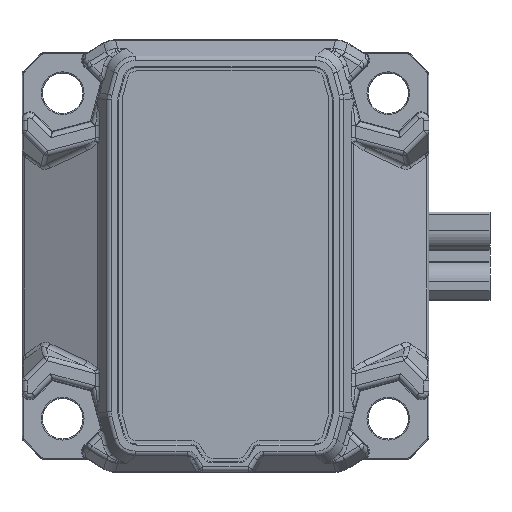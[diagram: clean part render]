
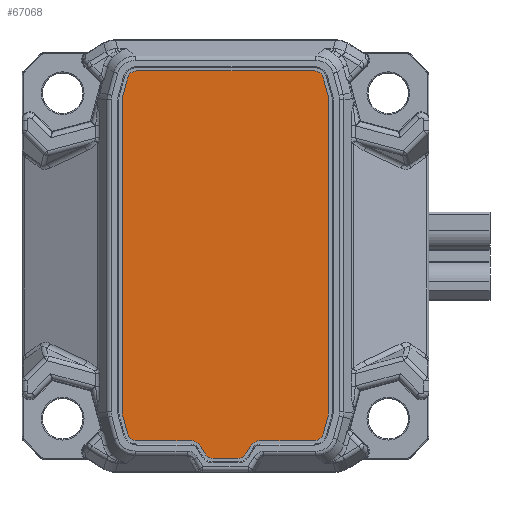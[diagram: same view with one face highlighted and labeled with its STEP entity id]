
A CAD part, top view. The second image highlights one B-rep face of the part: STEP entity #67068.
In plain terms, the highlighted planar face has unit normal (0, 0, 1).
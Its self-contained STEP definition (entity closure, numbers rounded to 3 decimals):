
#4999=PLANE('',#73884);
#8826=FACE_OUTER_BOUND('',#13111,.T.);
#13111=EDGE_LOOP('',(#60707,#60708,#60709,#60710,#60711,#60712,#60713,#60714,
#60715,#60716,#60717,#60718,#60719,#60720,#60721,#60722,#60723,#60724,#60725,
#60726,#60727,#60728,#60729,#60730));
#16443=CIRCLE('',#73837,0.92);
#16445=CIRCLE('',#73841,0.92);
#16447=CIRCLE('',#73845,0.92);
#16449=CIRCLE('',#73849,0.92);
#16451=CIRCLE('',#73853,0.92);
#16453=CIRCLE('',#73857,0.92);
#16455=CIRCLE('',#73861,1.08);
#16457=CIRCLE('',#73865,0.92);
#16459=CIRCLE('',#73869,0.92);
#16461=CIRCLE('',#73873,1.08);
#16463=CIRCLE('',#73877,0.92);
#16465=CIRCLE('',#73881,0.92);
#21238=LINE('',#130653,#25996);
#21242=LINE('',#130665,#26000);
#21246=LINE('',#130677,#26004);
#21250=LINE('',#130689,#26008);
#21254=LINE('',#130701,#26012);
#21258=LINE('',#130713,#26016);
#21262=LINE('',#130725,#26020);
#21266=LINE('',#130737,#26024);
#21270=LINE('',#130749,#26028);
#21274=LINE('',#130761,#26032);
#21278=LINE('',#130773,#26036);
#21282=LINE('',#130784,#26040);
#25996=VECTOR('',#91564,10.);
#26000=VECTOR('',#91576,10.);
#26004=VECTOR('',#91588,10.);
#26008=VECTOR('',#91600,10.);
#26012=VECTOR('',#91612,10.);
#26016=VECTOR('',#91624,10.);
#26020=VECTOR('',#91636,10.);
#26024=VECTOR('',#91648,10.);
#26028=VECTOR('',#91660,10.);
#26032=VECTOR('',#91672,10.);
#26036=VECTOR('',#91684,10.);
#26040=VECTOR('',#91696,10.);
#31862=VERTEX_POINT('',#130643);
#31863=VERTEX_POINT('',#130644);
#31866=VERTEX_POINT('',#130652);
#31868=VERTEX_POINT('',#130658);
#31870=VERTEX_POINT('',#130664);
#31872=VERTEX_POINT('',#130670);
#31874=VERTEX_POINT('',#130676);
#31876=VERTEX_POINT('',#130682);
#31878=VERTEX_POINT('',#130688);
#31880=VERTEX_POINT('',#130694);
#31882=VERTEX_POINT('',#130700);
#31884=VERTEX_POINT('',#130706);
#31886=VERTEX_POINT('',#130712);
#31888=VERTEX_POINT('',#130718);
#31890=VERTEX_POINT('',#130724);
#31892=VERTEX_POINT('',#130730);
#31894=VERTEX_POINT('',#130736);
#31896=VERTEX_POINT('',#130742);
#31898=VERTEX_POINT('',#130748);
#31900=VERTEX_POINT('',#130754);
#31902=VERTEX_POINT('',#130760);
#31904=VERTEX_POINT('',#130766);
#31906=VERTEX_POINT('',#130772);
#31908=VERTEX_POINT('',#130778);
#41506=EDGE_CURVE('',#31862,#31863,#16443,.T.);
#41510=EDGE_CURVE('',#31863,#31866,#21238,.T.);
#41513=EDGE_CURVE('',#31866,#31868,#16445,.T.);
#41516=EDGE_CURVE('',#31868,#31870,#21242,.T.);
#41519=EDGE_CURVE('',#31870,#31872,#16447,.T.);
#41522=EDGE_CURVE('',#31872,#31874,#21246,.T.);
#41525=EDGE_CURVE('',#31874,#31876,#16449,.T.);
#41528=EDGE_CURVE('',#31876,#31878,#21250,.T.);
#41531=EDGE_CURVE('',#31878,#31880,#16451,.T.);
#41534=EDGE_CURVE('',#31880,#31882,#21254,.T.);
#41537=EDGE_CURVE('',#31882,#31884,#16453,.T.);
#41540=EDGE_CURVE('',#31884,#31886,#21258,.T.);
#41543=EDGE_CURVE('',#31886,#31888,#16455,.T.);
#41546=EDGE_CURVE('',#31888,#31890,#21262,.T.);
#41549=EDGE_CURVE('',#31890,#31892,#16457,.T.);
#41552=EDGE_CURVE('',#31892,#31894,#21266,.T.);
#41555=EDGE_CURVE('',#31894,#31896,#16459,.T.);
#41558=EDGE_CURVE('',#31896,#31898,#21270,.T.);
#41561=EDGE_CURVE('',#31898,#31900,#16461,.T.);
#41564=EDGE_CURVE('',#31900,#31902,#21274,.T.);
#41567=EDGE_CURVE('',#31902,#31904,#16463,.T.);
#41570=EDGE_CURVE('',#31904,#31906,#21278,.T.);
#41573=EDGE_CURVE('',#31906,#31908,#16465,.T.);
#41576=EDGE_CURVE('',#31908,#31862,#21282,.T.);
#60707=ORIENTED_EDGE('',*,*,#41506,.F.);
#60708=ORIENTED_EDGE('',*,*,#41576,.F.);
#60709=ORIENTED_EDGE('',*,*,#41573,.F.);
#60710=ORIENTED_EDGE('',*,*,#41570,.F.);
#60711=ORIENTED_EDGE('',*,*,#41567,.F.);
#60712=ORIENTED_EDGE('',*,*,#41564,.F.);
#60713=ORIENTED_EDGE('',*,*,#41561,.F.);
#60714=ORIENTED_EDGE('',*,*,#41558,.F.);
#60715=ORIENTED_EDGE('',*,*,#41555,.F.);
#60716=ORIENTED_EDGE('',*,*,#41552,.F.);
#60717=ORIENTED_EDGE('',*,*,#41549,.F.);
#60718=ORIENTED_EDGE('',*,*,#41546,.F.);
#60719=ORIENTED_EDGE('',*,*,#41543,.F.);
#60720=ORIENTED_EDGE('',*,*,#41540,.F.);
#60721=ORIENTED_EDGE('',*,*,#41537,.F.);
#60722=ORIENTED_EDGE('',*,*,#41534,.F.);
#60723=ORIENTED_EDGE('',*,*,#41531,.F.);
#60724=ORIENTED_EDGE('',*,*,#41528,.F.);
#60725=ORIENTED_EDGE('',*,*,#41525,.F.);
#60726=ORIENTED_EDGE('',*,*,#41522,.F.);
#60727=ORIENTED_EDGE('',*,*,#41519,.F.);
#60728=ORIENTED_EDGE('',*,*,#41516,.F.);
#60729=ORIENTED_EDGE('',*,*,#41513,.F.);
#60730=ORIENTED_EDGE('',*,*,#41510,.F.);
#67068=ADVANCED_FACE('',(#8826),#4999,.T.);
#73837=AXIS2_PLACEMENT_3D('',#130645,#91556,#91557);
#73841=AXIS2_PLACEMENT_3D('',#130659,#91569,#91570);
#73845=AXIS2_PLACEMENT_3D('',#130671,#91581,#91582);
#73849=AXIS2_PLACEMENT_3D('',#130683,#91593,#91594);
#73853=AXIS2_PLACEMENT_3D('',#130695,#91605,#91606);
#73857=AXIS2_PLACEMENT_3D('',#130707,#91617,#91618);
#73861=AXIS2_PLACEMENT_3D('',#130719,#91629,#91630);
#73865=AXIS2_PLACEMENT_3D('',#130731,#91641,#91642);
#73869=AXIS2_PLACEMENT_3D('',#130743,#91653,#91654);
#73873=AXIS2_PLACEMENT_3D('',#130755,#91665,#91666);
#73877=AXIS2_PLACEMENT_3D('',#130767,#91677,#91678);
#73881=AXIS2_PLACEMENT_3D('',#130779,#91689,#91690);
#73884=AXIS2_PLACEMENT_3D('',#130786,#91698,#91699);
#91556=DIRECTION('center_axis',(0.,0.,-1.));
#91557=DIRECTION('ref_axis',(-0.966,0.259,0.));
#91564=DIRECTION('',(0.259,0.966,0.));
#91569=DIRECTION('center_axis',(0.,0.,-1.));
#91570=DIRECTION('ref_axis',(0.,1.,0.));
#91576=DIRECTION('',(1.,0.,0.));
#91581=DIRECTION('center_axis',(0.,0.,-1.));
#91582=DIRECTION('ref_axis',(0.966,0.259,0.));
#91588=DIRECTION('',(0.259,-0.966,0.));
#91593=DIRECTION('center_axis',(0.,0.,-1.));
#91594=DIRECTION('ref_axis',(1.,0.,0.));
#91600=DIRECTION('',(0.,-1.,0.));
#91605=DIRECTION('center_axis',(0.,0.,-1.));
#91606=DIRECTION('ref_axis',(0.966,-0.259,0.));
#91612=DIRECTION('',(-0.259,-0.966,0.));
#91617=DIRECTION('center_axis',(0.,0.,-1.));
#91618=DIRECTION('ref_axis',(0.,-1.,0.));
#91624=DIRECTION('',(-1.,0.,0.));
#91629=DIRECTION('center_axis',(0.,0.,1.));
#91630=DIRECTION('ref_axis',(0.,1.,0.));
#91636=DIRECTION('',(-0.5,-0.866,0.));
#91641=DIRECTION('center_axis',(0.,0.,-1.));
#91642=DIRECTION('ref_axis',(0.,-1.,0.));
#91648=DIRECTION('',(-1.,0.,0.));
#91653=DIRECTION('center_axis',(0.,0.,-1.));
#91654=DIRECTION('ref_axis',(-0.866,-0.5,0.));
#91660=DIRECTION('',(-0.5,0.866,0.));
#91665=DIRECTION('center_axis',(0.,0.,1.));
#91666=DIRECTION('ref_axis',(0.866,0.5,0.));
#91672=DIRECTION('',(-1.,0.,0.));
#91677=DIRECTION('center_axis',(0.,0.,-1.));
#91678=DIRECTION('ref_axis',(-0.966,-0.259,0.));
#91684=DIRECTION('',(-0.259,0.966,0.));
#91689=DIRECTION('center_axis',(0.,0.,-1.));
#91690=DIRECTION('ref_axis',(-1.,0.,0.));
#91696=DIRECTION('',(0.,1.,0.));
#91698=DIRECTION('center_axis',(0.,0.,1.));
#91699=DIRECTION('ref_axis',(1.,0.,0.));
#130643=CARTESIAN_POINT('',(-10.17,15.305,0.15));
#130644=CARTESIAN_POINT('',(-10.139,15.543,0.15));
#130645=CARTESIAN_POINT('Origin',(-9.25,15.305,0.15));
#130652=CARTESIAN_POINT('',(-9.617,17.488,0.15));
#130653=CARTESIAN_POINT('',(-11.591,10.124,0.15));
#130658=CARTESIAN_POINT('',(-8.729,18.17,0.15));
#130659=CARTESIAN_POINT('Origin',(-8.729,17.25,0.15));
#130664=CARTESIAN_POINT('',(8.729,18.17,0.15));
#130665=CARTESIAN_POINT('',(4.364,18.17,0.15));
#130670=CARTESIAN_POINT('',(9.617,17.488,0.15));
#130671=CARTESIAN_POINT('Origin',(8.729,17.25,0.15));
#130676=CARTESIAN_POINT('',(10.139,15.543,0.15));
#130677=CARTESIAN_POINT('',(11.851,9.151,0.15));
#130682=CARTESIAN_POINT('',(10.17,15.305,0.15));
#130683=CARTESIAN_POINT('Origin',(9.25,15.305,0.15));
#130688=CARTESIAN_POINT('',(10.17,-15.305,0.15));
#130689=CARTESIAN_POINT('',(10.17,-8.09,0.15));
#130694=CARTESIAN_POINT('',(10.139,-15.543,0.15));
#130695=CARTESIAN_POINT('Origin',(9.25,-15.305,0.15));
#130700=CARTESIAN_POINT('',(9.617,-17.488,0.15));
#130701=CARTESIAN_POINT('',(11.372,-10.94,0.15));
#130706=CARTESIAN_POINT('',(8.729,-18.17,0.15));
#130707=CARTESIAN_POINT('Origin',(8.729,-17.25,0.15));
#130712=CARTESIAN_POINT('',(3.377,-18.17,0.15));
#130713=CARTESIAN_POINT('',(1.689,-18.17,0.15));
#130718=CARTESIAN_POINT('',(2.442,-18.71,0.15));
#130719=CARTESIAN_POINT('Origin',(3.377,-19.25,0.15));
#130724=CARTESIAN_POINT('',(2.009,-19.46,0.15));
#130725=CARTESIAN_POINT('',(5.782,-12.926,0.15));
#130730=CARTESIAN_POINT('',(1.212,-19.92,0.15));
#130731=CARTESIAN_POINT('Origin',(1.212,-19.,0.15));
#130736=CARTESIAN_POINT('',(-1.212,-19.92,0.15));
#130737=CARTESIAN_POINT('',(-0.606,-19.92,0.15));
#130742=CARTESIAN_POINT('',(-2.009,-19.46,0.15));
#130743=CARTESIAN_POINT('Origin',(-1.212,-19.,0.15));
#130748=CARTESIAN_POINT('',(-2.442,-18.71,0.15));
#130749=CARTESIAN_POINT('',(-5.998,-12.551,0.15));
#130754=CARTESIAN_POINT('',(-3.377,-18.17,0.15));
#130755=CARTESIAN_POINT('Origin',(-3.377,-19.25,0.15));
#130760=CARTESIAN_POINT('',(-8.729,-18.17,0.15));
#130761=CARTESIAN_POINT('',(-4.364,-18.17,0.15));
#130766=CARTESIAN_POINT('',(-9.617,-17.488,0.15));
#130767=CARTESIAN_POINT('Origin',(-8.729,-17.25,0.15));
#130772=CARTESIAN_POINT('',(-10.139,-15.543,0.15));
#130773=CARTESIAN_POINT('',(-11.633,-9.967,0.15));
#130778=CARTESIAN_POINT('',(-10.17,-15.305,0.15));
#130779=CARTESIAN_POINT('Origin',(-9.25,-15.305,0.15));
#130784=CARTESIAN_POINT('',(-10.17,7.215,0.15));
#130786=CARTESIAN_POINT('Origin',(0.,-0.875,
0.15));
